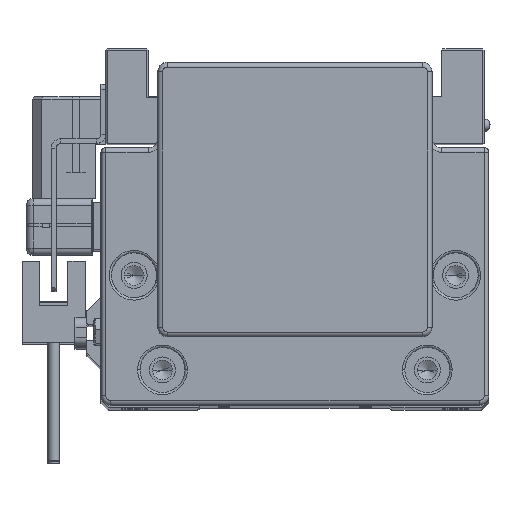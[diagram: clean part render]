
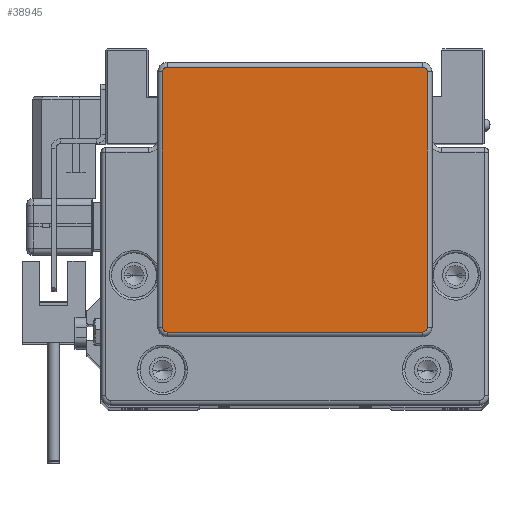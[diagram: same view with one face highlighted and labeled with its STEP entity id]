
A CAD part, top view. The second image highlights one B-rep face of the part: STEP entity #38945.
In plain terms, the highlighted planar face has unit normal (0, 0, 1).
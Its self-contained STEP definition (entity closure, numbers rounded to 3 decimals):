
#699 = VERTEX_POINT ( 'NONE', #15130 ) ;
#1085 = CARTESIAN_POINT ( 'NONE',  ( 27., -19.75, 17. ) ) ;
#1209 = FACE_OUTER_BOUND ( 'NONE', #35293, .T. ) ;
#1437 = ORIENTED_EDGE ( 'NONE', *, *, #33380, .T. ) ;
#3516 = CARTESIAN_POINT ( 'NONE',  ( -27., -19.75, 17. ) ) ;
#3691 = VERTEX_POINT ( 'NONE', #23969 ) ;
#3705 = PLANE ( 'NONE',  #13911 ) ;
#3749 = DIRECTION ( 'NONE',  ( 1., 0., 0. ) ) ;
#4365 = DIRECTION ( 'NONE',  ( 0., 0., 1. ) ) ;
#4609 = VERTEX_POINT ( 'NONE', #17681 ) ;
#4952 = EDGE_CURVE ( 'NONE', #3691, #22391, #16332, .T. ) ;
#6625 = ORIENTED_EDGE ( 'NONE', *, *, #15225, .T. ) ;
#7208 = EDGE_CURVE ( 'NONE', #699, #40430, #31303, .T. ) ;
#7312 = DIRECTION ( 'NONE',  ( 1., 0., 0. ) ) ;
#7316 = VERTEX_POINT ( 'NONE', #26881 ) ;
#9669 = DIRECTION ( 'NONE',  ( 0., 1., 0. ) ) ;
#10447 = DIRECTION ( 'NONE',  ( 1., 0., 0. ) ) ;
#11442 = VECTOR ( 'NONE', #9669, 1000. ) ;
#11735 = VECTOR ( 'NONE', #3749, 1000. ) ;
#12121 = ORIENTED_EDGE ( 'NONE', *, *, #30977, .T. ) ;
#13131 = VERTEX_POINT ( 'NONE', #24632 ) ;
#13911 = AXIS2_PLACEMENT_3D ( 'NONE', #21492, #4365, #10447 ) ;
#14114 = ORIENTED_EDGE ( 'NONE', *, *, #17134, .T. ) ;
#14475 = CARTESIAN_POINT ( 'NONE',  ( 27., 35.25, 17. ) ) ;
#15130 = CARTESIAN_POINT ( 'NONE',  ( 28., 34.25, 17. ) ) ;
#15225 = EDGE_CURVE ( 'NONE', #13131, #4609, #24900, .T. ) ;
#15266 = EDGE_CURVE ( 'NONE', #40430, #3691, #27393, .T. ) ;
#16332 = CIRCLE ( 'NONE', #30665, 1. ) ;
#16532 = DIRECTION ( 'NONE',  ( 0., 0., 1. ) ) ;
#16668 = LINE ( 'NONE', #43465, #11442 ) ;
#17134 = EDGE_CURVE ( 'NONE', #22391, #17750, #42633, .T. ) ;
#17263 = DIRECTION ( 'NONE',  ( 1., 0., 0. ) ) ;
#17553 = DIRECTION ( 'NONE',  ( 0., 0., 1. ) ) ;
#17681 = CARTESIAN_POINT ( 'NONE',  ( 27., -20.75, 17. ) ) ;
#17750 = VERTEX_POINT ( 'NONE', #41817 ) ;
#17793 = DIRECTION ( 'NONE',  ( 1., 0., 0. ) ) ;
#19044 = ORIENTED_EDGE ( 'NONE', *, *, #15266, .T. ) ;
#20209 = ORIENTED_EDGE ( 'NONE', *, *, #20723, .T. ) ;
#20723 = EDGE_CURVE ( 'NONE', #4609, #7316, #37935, .T. ) ;
#20729 = ORIENTED_EDGE ( 'NONE', *, *, #4952, .T. ) ;
#20871 = CARTESIAN_POINT ( 'NONE',  ( 27., -20.75, 17. ) ) ;
#21052 = DIRECTION ( 'NONE',  ( 0., 0., 1. ) ) ;
#21492 = CARTESIAN_POINT ( 'NONE',  ( -27., -19.75, 17. ) ) ;
#22391 = VERTEX_POINT ( 'NONE', #31891 ) ;
#23969 = CARTESIAN_POINT ( 'NONE',  ( -27., 35.25, 17. ) ) ;
#24455 = DIRECTION ( 'NONE',  ( -1., 0., 0. ) ) ;
#24632 = CARTESIAN_POINT ( 'NONE',  ( -27., -20.75, 17. ) ) ;
#24679 = CARTESIAN_POINT ( 'NONE',  ( -27., 35.25, 17. ) ) ;
#24900 = LINE ( 'NONE', #20871, #11735 ) ;
#25950 = AXIS2_PLACEMENT_3D ( 'NONE', #3516, #28490, #17263 ) ;
#26448 = CARTESIAN_POINT ( 'NONE',  ( -27., 34.25, 17. ) ) ;
#26881 = CARTESIAN_POINT ( 'NONE',  ( 28., -19.75, 17. ) ) ;
#27393 = LINE ( 'NONE', #24679, #38337 ) ;
#27573 = CARTESIAN_POINT ( 'NONE',  ( 27., 34.25, 17. ) ) ;
#28490 = DIRECTION ( 'NONE',  ( 0., 0., 1. ) ) ;
#30053 = DIRECTION ( 'NONE',  ( 1., 0., 0. ) ) ;
#30665 = AXIS2_PLACEMENT_3D ( 'NONE', #26448, #16532, #30053 ) ;
#30977 = EDGE_CURVE ( 'NONE', #17750, #13131, #41049, .T. ) ;
#31303 = CIRCLE ( 'NONE', #40670, 1. ) ;
#31660 = ORIENTED_EDGE ( 'NONE', *, *, #7208, .T. ) ;
#31891 = CARTESIAN_POINT ( 'NONE',  ( -28., 34.25, 17. ) ) ;
#33380 = EDGE_CURVE ( 'NONE', #7316, #699, #16668, .T. ) ;
#35293 = EDGE_LOOP ( 'NONE', ( #19044, #20729, #14114, #12121, #6625, #20209, #1437, #31660 ) ) ;
#35869 = DIRECTION ( 'NONE',  ( 0., -1., 0. ) ) ;
#37935 = CIRCLE ( 'NONE', #44402, 1. ) ;
#38337 = VECTOR ( 'NONE', #24455, 1000. ) ;
#38945 = ADVANCED_FACE ( 'NONE', ( #1209 ), #3705, .T. ) ;
#39476 = CARTESIAN_POINT ( 'NONE',  ( -28., -19.75, 17. ) ) ;
#40430 = VERTEX_POINT ( 'NONE', #14475 ) ;
#40643 = VECTOR ( 'NONE', #35869, 1000. ) ;
#40670 = AXIS2_PLACEMENT_3D ( 'NONE', #27573, #21052, #7312 ) ;
#41049 = CIRCLE ( 'NONE', #25950, 1. ) ;
#41817 = CARTESIAN_POINT ( 'NONE',  ( -28., -19.75, 17. ) ) ;
#42633 = LINE ( 'NONE', #39476, #40643 ) ;
#43465 = CARTESIAN_POINT ( 'NONE',  ( 28., 34.25, 17. ) ) ;
#44402 = AXIS2_PLACEMENT_3D ( 'NONE', #1085, #17553, #17793 ) ;
